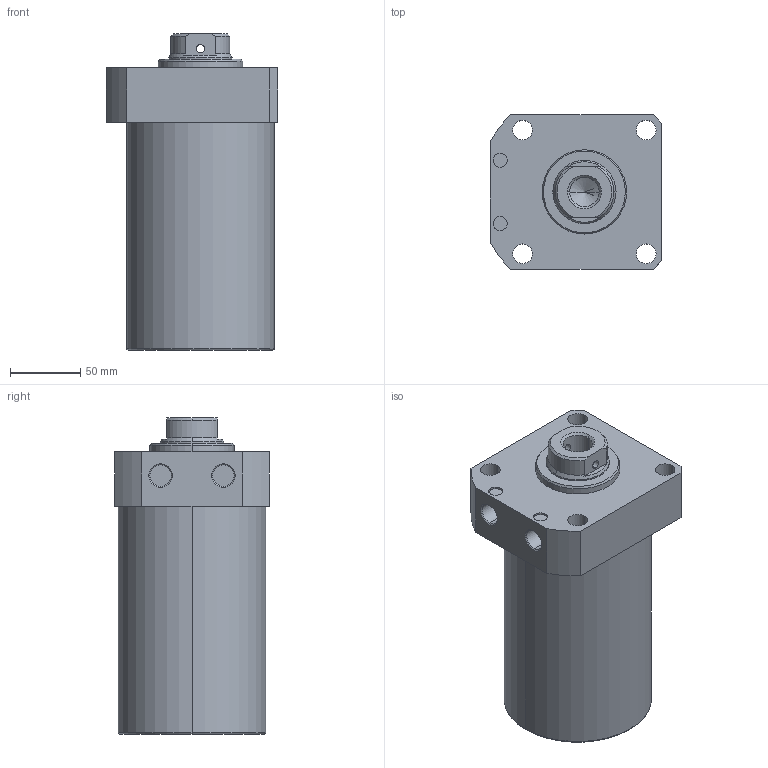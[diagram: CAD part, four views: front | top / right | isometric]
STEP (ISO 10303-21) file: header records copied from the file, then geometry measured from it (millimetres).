
FILE_DESCRIPTION (( 'STEP AP203' ), '1' );
FILE_NAME ('CLLR-105CB-115.STEP', '2019-12-18T07:30:38', ( '' ), ( '' ), 'SwSTEP 2.0', 'SolidWorks 2015', '' );
FILE_SCHEMA (( 'CONFIG_CONTROL_DESIGN' ));
Length unit declared in the file: millimetre
Products named in the file (1): CLLR-105CB-115
Bounding box: 122 x 110 x 225 mm (x, y, z)
Volume: 1899488.6 mm3; surface area: 112201 mm2
Topology: 1 solids, 1 shells, 69 faces, 165 edges, 104 vertices
Faces by surface type: cylinder 33, plane 19, cone 15, torus 2
Entity records: 2227 total; most frequent: CARTESIAN_POINT 481, DIRECTION 372, ORIENTED_EDGE 326, EDGE_CURVE 163, AXIS2_PLACEMENT_3D 151, VERTEX_POINT 104, EDGE_LOOP 89, CIRCLE 81
